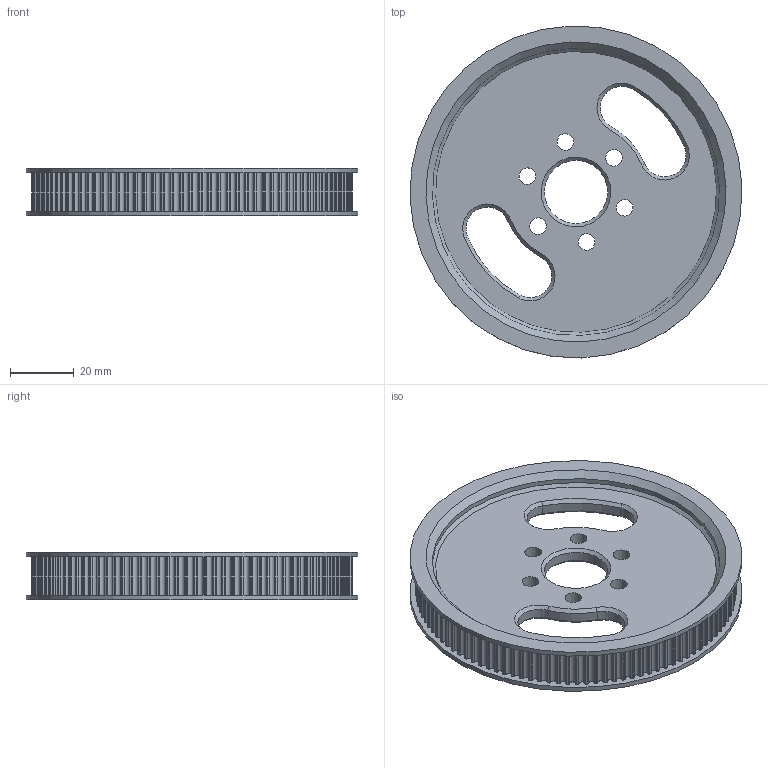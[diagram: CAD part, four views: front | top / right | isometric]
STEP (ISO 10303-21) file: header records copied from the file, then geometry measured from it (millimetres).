
FILE_DESCRIPTION(/* description */ (''),/* implementation_level */ '2;1');
FILE_NAME(/* name */ 'driven pulley (hd3-3 100t) v4.step',/* time_stamp */ '2026-06-03T23:45:35+01:00',/* author */ (''),/* organization */ (''),/* preprocessor_version */ 'ST-DEVELOPER v20.1',/* originating_system */ 'Autodesk Translation Framework v15.8.0.0',/* authorisation */ '');
FILE_SCHEMA (('AUTOMOTIVE_DESIGN { 1 0 10303 214 3 1 1 }'));
Length unit declared in the file: millimetre
Products named in the file (2): driven pulley (hd3-3 100t); HTD3.0 Pulley 106_T 11.0mm_Belt
Assembly tree (1 placements, depth 2):
  driven pulley (hd3-3 100t)
    HTD3.0 Pulley 106_T 11.0mm_Belt
Bounding box: 103.94 x 103.94 x 15 mm (x, y, z)
Volume: 46957.7 mm3; surface area: 25887.8 mm2
Topology: 1 solids, 1 shells, 471 faces, 1373 edges, 908 vertices
Faces by surface type: cylinder 443, cone 22, plane 6
Full cylindrical faces by diameter (mm): 5.2 x6, 19.8 x1, 90 x2, 104 x2
Entity records: 16208 total; most frequent: DIRECTION 3229, CARTESIAN_POINT 2755, ORIENTED_EDGE 2746, AXIS2_PLACEMENT_3D 1382, EDGE_CURVE 1373, CIRCLE 908, VERTEX_POINT 908, EDGE_LOOP 493
